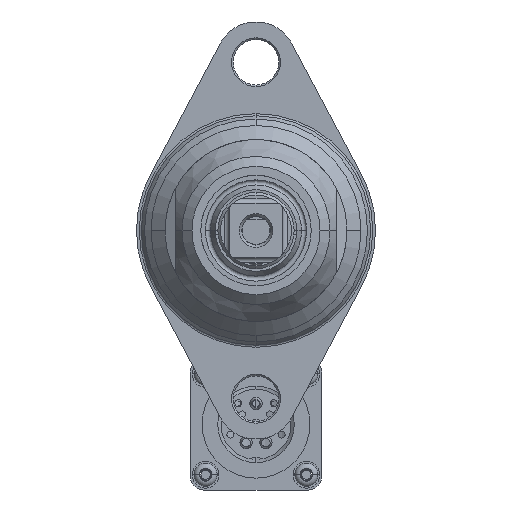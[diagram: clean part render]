
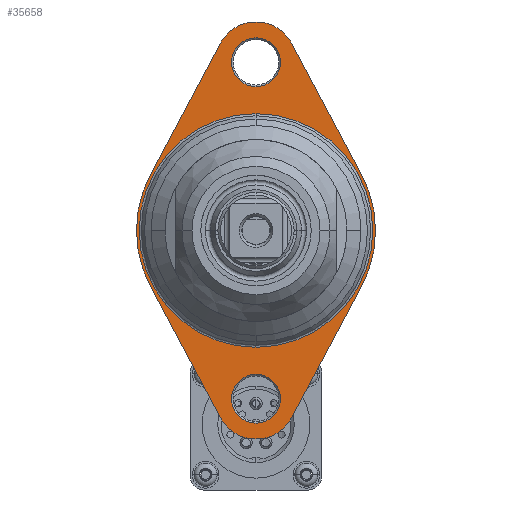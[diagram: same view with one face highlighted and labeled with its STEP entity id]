
A CAD part, left-side view. The second image highlights one B-rep face of the part: STEP entity #35658.
In plain terms, the highlighted planar face has unit normal (-1, 0, 0).
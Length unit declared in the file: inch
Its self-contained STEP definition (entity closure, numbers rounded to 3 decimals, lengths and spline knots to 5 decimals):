
#33868=CARTESIAN_POINT('',(-10.8622,0.005,1.5625));
#33869=DIRECTION('',(-1.,0.,0.));
#33870=DIRECTION('',(0.,-0.882,0.47));
#33871=AXIS2_PLACEMENT_3D('',#33868,#33869,#33870);
#33873=DIRECTION('',(0.,0.47,0.882));
#33874=VECTOR('',#33873,1.37883);
#33875=CARTESIAN_POINT('',(-10.8622,-0.97452,0.52214));
#33876=LINE('',#33875,#33874);
#33877=CARTESIAN_POINT('',(-10.8622,0.005,0.));
#33878=DIRECTION('',(-1.,0.,0.));
#33879=DIRECTION('',(0.,-0.882,-0.47));
#33880=AXIS2_PLACEMENT_3D('',#33877,#33878,#33879);
#33882=DIRECTION('',(0.,-0.47,0.882));
#33883=VECTOR('',#33882,1.37883);
#33884=CARTESIAN_POINT('',(-10.8622,-0.32592,-1.7389));
#33885=LINE('',#33884,#33883);
#33886=CARTESIAN_POINT('',(-10.8622,0.005,-1.5625));
#33887=DIRECTION('',(-1.,0.,0.));
#33888=DIRECTION('',(0.,0.882,-0.47));
#33889=AXIS2_PLACEMENT_3D('',#33886,#33887,#33888);
#33891=DIRECTION('',(0.,-0.47,-0.882));
#33892=VECTOR('',#33891,1.37883);
#33893=CARTESIAN_POINT('',(-10.8622,0.98452,-0.52214));
#33894=LINE('',#33893,#33892);
#33895=CARTESIAN_POINT('',(-10.8622,0.005,0.));
#33896=DIRECTION('',(-1.,0.,0.));
#33897=DIRECTION('',(0.,0.882,0.47));
#33898=AXIS2_PLACEMENT_3D('',#33895,#33896,#33897);
#33900=DIRECTION('',(0.,0.47,-0.882));
#33901=VECTOR('',#33900,1.37883);
#33902=CARTESIAN_POINT('',(-10.8622,0.33592,1.7389));
#33903=LINE('',#33902,#33901);
#33904=CARTESIAN_POINT('',(-10.8622,0.005,1.5625));
#33905=DIRECTION('',(1.,0.,0.));
#33906=DIRECTION('',(0.,0.,1.));
#33907=AXIS2_PLACEMENT_3D('',#33904,#33905,#33906);
#33922=CARTESIAN_POINT('',(-10.8622,0.005,1.5625));
#33923=DIRECTION('',(1.,0.,0.));
#33924=DIRECTION('',(0.,0.,-1.));
#33925=AXIS2_PLACEMENT_3D('',#33922,#33923,#33924);
#33968=CARTESIAN_POINT('',(-10.8622,0.005,-1.5625));
#33969=DIRECTION('',(-1.,0.,0.));
#33970=DIRECTION('',(0.,0.,-1.));
#33971=AXIS2_PLACEMENT_3D('',#33968,#33969,#33970);
#33986=CARTESIAN_POINT('',(-10.8622,0.005,-1.5625));
#33987=DIRECTION('',(-1.,0.,0.));
#33988=DIRECTION('',(0.,0.,1.));
#33989=AXIS2_PLACEMENT_3D('',#33986,#33987,#33988);
#34032=CARTESIAN_POINT('',(-10.8622,0.005,0.));
#34033=DIRECTION('',(-1.,0.,0.));
#34034=DIRECTION('',(0.,0.,-1.));
#34035=AXIS2_PLACEMENT_3D('',#34032,#34033,#34034);
#34047=CARTESIAN_POINT('',(-10.8622,0.005,0.));
#34048=DIRECTION('',(-1.,0.,0.));
#34049=DIRECTION('',(0.,0.,1.));
#34050=AXIS2_PLACEMENT_3D('',#34047,#34048,#34049);
#35325=CARTESIAN_POINT('',(-10.8622,-0.32592,1.7389));
#35326=CARTESIAN_POINT('',(-10.8622,0.33592,1.7389));
#35327=VERTEX_POINT('',#35325);
#35328=VERTEX_POINT('',#35326);
#35329=CARTESIAN_POINT('',(-10.8622,0.98452,0.52214));
#35330=VERTEX_POINT('',#35329);
#35331=CARTESIAN_POINT('',(-10.8622,0.98452,-0.52214));
#35332=VERTEX_POINT('',#35331);
#35333=CARTESIAN_POINT('',(-10.8622,0.33592,-1.7389));
#35334=VERTEX_POINT('',#35333);
#35335=CARTESIAN_POINT('',(-10.8622,-0.32592,-1.7389));
#35336=VERTEX_POINT('',#35335);
#35337=CARTESIAN_POINT('',(-10.8622,-0.97452,-0.52214));
#35338=VERTEX_POINT('',#35337);
#35339=CARTESIAN_POINT('',(-10.8622,-0.97452,0.52214));
#35340=VERTEX_POINT('',#35339);
#35369=CARTESIAN_POINT('',(-10.8622,0.005,1.336));
#35370=CARTESIAN_POINT('',(-10.8622,0.005,1.789));
#35371=VERTEX_POINT('',#35369);
#35372=VERTEX_POINT('',#35370);
#35377=CARTESIAN_POINT('',(-10.8622,0.005,-1.336));
#35378=CARTESIAN_POINT('',(-10.8622,0.005,-1.789));
#35379=VERTEX_POINT('',#35377);
#35380=VERTEX_POINT('',#35378);
#35393=CARTESIAN_POINT('',(-10.8622,0.005,-1.085));
#35394=CARTESIAN_POINT('',(-10.8622,0.005,1.085));
#35395=VERTEX_POINT('',#35393);
#35396=VERTEX_POINT('',#35394);
#35625=CARTESIAN_POINT('',(-10.8622,0.005,0.));
#35626=DIRECTION('',(-1.,0.,0.));
#35627=DIRECTION('',(0.,-1.,0.));
#35628=AXIS2_PLACEMENT_3D('',#35625,#35626,#35627);
#35629=PLANE('',#35628);
#35630=ORIENTED_EDGE('',*,*,#35521,.F.);
#35631=ORIENTED_EDGE('',*,*,#35536,.F.);
#35632=ORIENTED_EDGE('',*,*,#35550,.F.);
#35633=ORIENTED_EDGE('',*,*,#35564,.F.);
#35634=ORIENTED_EDGE('',*,*,#35578,.F.);
#35635=ORIENTED_EDGE('',*,*,#35592,.F.);
#35636=ORIENTED_EDGE('',*,*,#35606,.F.);
#35637=ORIENTED_EDGE('',*,*,#35619,.F.);
#35638=EDGE_LOOP('',(#35630,#35631,#35632,#35633,#35634,#35635,#35636,#35637));
#35639=FACE_OUTER_BOUND('',#35638,.F.);
#35641=ORIENTED_EDGE('',*,*,#35640,.F.);
#35643=ORIENTED_EDGE('',*,*,#35642,.F.);
#35644=EDGE_LOOP('',(#35641,#35643));
#35645=FACE_BOUND('',#35644,.F.);
#35647=ORIENTED_EDGE('',*,*,#35646,.T.);
#35649=ORIENTED_EDGE('',*,*,#35648,.T.);
#35650=EDGE_LOOP('',(#35647,#35649));
#35651=FACE_BOUND('',#35650,.F.);
#35653=ORIENTED_EDGE('',*,*,#35652,.T.);
#35655=ORIENTED_EDGE('',*,*,#35654,.T.);
#35656=EDGE_LOOP('',(#35653,#35655));
#35657=FACE_BOUND('',#35656,.F.);
#35658=ADVANCED_FACE('',(#35639,#35645,#35651,#35657),#35629,.T.);
#33872=CIRCLE('',#33871,0.375);
#33881=CIRCLE('',#33880,1.11);
#33890=CIRCLE('',#33889,0.375);
#33899=CIRCLE('',#33898,1.11);
#33908=CIRCLE('',#33907,0.2265);
#33926=CIRCLE('',#33925,0.2265);
#33972=CIRCLE('',#33971,0.2265);
#33990=CIRCLE('',#33989,0.2265);
#34036=CIRCLE('',#34035,1.085);
#34051=CIRCLE('',#34050,1.085);
#35521=EDGE_CURVE('',#35327,#35328,#33872,.T.);
#35536=EDGE_CURVE('',#35340,#35327,#33876,.T.);
#35550=EDGE_CURVE('',#35338,#35340,#33881,.T.);
#35564=EDGE_CURVE('',#35336,#35338,#33885,.T.);
#35578=EDGE_CURVE('',#35334,#35336,#33890,.T.);
#35592=EDGE_CURVE('',#35332,#35334,#33894,.T.);
#35606=EDGE_CURVE('',#35330,#35332,#33899,.T.);
#35619=EDGE_CURVE('',#35328,#35330,#33903,.T.);
#35640=EDGE_CURVE('',#35372,#35371,#33908,.T.);
#35642=EDGE_CURVE('',#35371,#35372,#33926,.T.);
#35646=EDGE_CURVE('',#35380,#35379,#33972,.T.);
#35648=EDGE_CURVE('',#35379,#35380,#33990,.T.);
#35652=EDGE_CURVE('',#35395,#35396,#34036,.T.);
#35654=EDGE_CURVE('',#35396,#35395,#34051,.T.);
